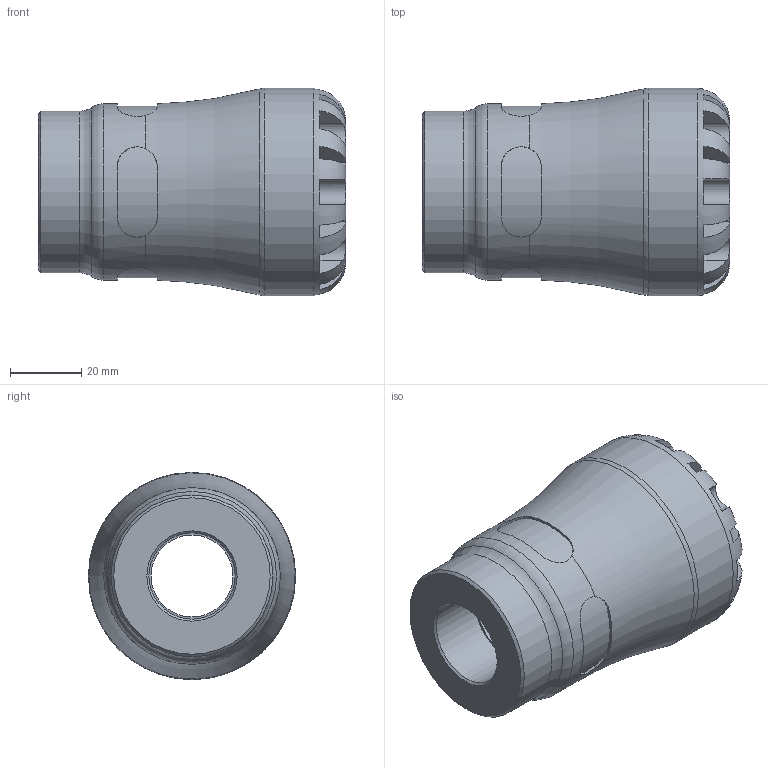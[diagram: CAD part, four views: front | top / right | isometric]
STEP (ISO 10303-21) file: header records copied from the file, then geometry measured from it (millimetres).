
FILE_DESCRIPTION(/* description */ ('PLASSON FEMALE INTEGRAL BRASS THREAD 32X3/4" SERIES 1'),/* implementation_level */ '2;1');
FILE_NAME(/* name */ 'C:\Dropbox\KIMPROJECTS-Inventor\99-16-3568-Processing\1073\107300032007_197300032007.ipt.stp',/* time_stamp */ '2017-01-22T11:35:28+02:00',/* author */ ('KIM'),/* organization */ (''),/* preprocessor_version */ 'ST-DEVELOPER v15.6',/* originating_system */ 'Autodesk Inventor 2015',/* authorisation */ '');
FILE_SCHEMA (('AUTOMOTIVE_DESIGN { 1 0 10303 214 3 1 1 }'));
Length unit declared in the file: millimetre
Products named in the file (1): 107300032007_197300032007
Bounding box: 86 x 58 x 58 mm (x, y, z)
Volume: 118783.7 mm3; surface area: 26351.1 mm2
Topology: 1 solids, 1 shells, 104 faces, 265 edges, 166 vertices
Faces by surface type: plane 61, cylinder 35, torus 5, cone 3
Full cylindrical faces by diameter (mm): 22.911 x1, 24.117 x1, 26.667 x1, 32 x1, 45.24 x1, 49.3 x1, 58 x1
Entity records: 3870 total; most frequent: CARTESIAN_POINT 1483, ORIENTED_EDGE 492, DIRECTION 478, EDGE_CURVE 246, AXIS2_PLACEMENT_3D 199, VERTEX_POINT 162, EDGE_LOOP 124, FACE_OUTER_BOUND 104
